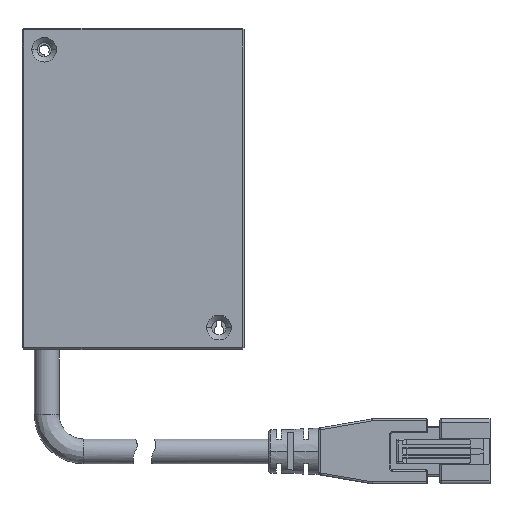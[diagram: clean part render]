
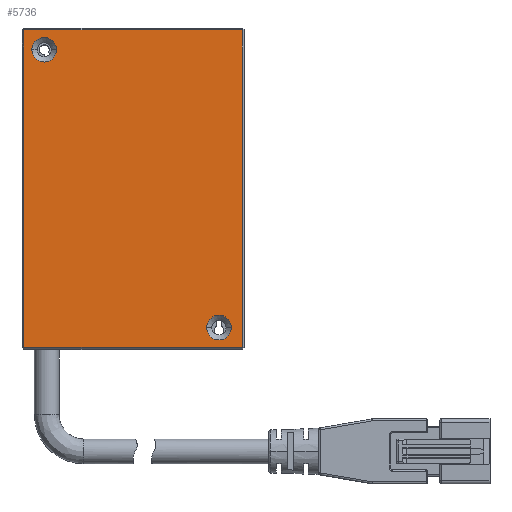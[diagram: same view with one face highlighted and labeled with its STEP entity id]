
A CAD part, top view. The second image highlights one B-rep face of the part: STEP entity #5736.
In plain terms, the highlighted planar face has unit normal (0, 0, 1).
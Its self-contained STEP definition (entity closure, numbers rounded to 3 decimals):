
#87 = CARTESIAN_POINT ( 'NONE',  ( 31.9, 3.5, 18. ) ) ;
#230 = ORIENTED_EDGE ( 'NONE', *, *, #3876, .F. ) ;
#344 = EDGE_LOOP ( 'NONE', ( #5588, #230 ) ) ;
#356 = LINE ( 'NONE', #4412, #6135 ) ;
#634 = EDGE_CURVE ( 'NONE', #7697, #4189, #10640, .T. ) ;
#1345 = CIRCLE ( 'NONE', #2762, 2. ) ;
#1503 = EDGE_CURVE ( 'NONE', #10865, #7697, #3431, .T. ) ;
#2211 = AXIS2_PLACEMENT_3D ( 'NONE', #87, #5400, #6278 ) ;
#2281 = CARTESIAN_POINT ( 'NONE',  ( 35.7, 26., 18. ) ) ;
#2302 = VERTEX_POINT ( 'NONE', #3364 ) ;
#2568 = CARTESIAN_POINT ( 'NONE',  ( 0.3, 51.7, 18. ) ) ;
#2762 = AXIS2_PLACEMENT_3D ( 'NONE', #10172, #9283, #4967 ) ;
#3049 = DIRECTION ( 'NONE',  ( 1., 0., 0. ) ) ;
#3058 = FACE_BOUND ( 'NONE', #10550, .T. ) ;
#3116 = CIRCLE ( 'NONE', #7609, 2. ) ;
#3279 = ORIENTED_EDGE ( 'NONE', *, *, #10668, .T. ) ;
#3282 = CARTESIAN_POINT ( 'NONE',  ( 18., 0.3, 18. ) ) ;
#3283 = DIRECTION ( 'NONE',  ( 0., 0., -1. ) ) ;
#3324 = CIRCLE ( 'NONE', #2211, 2. ) ;
#3364 = CARTESIAN_POINT ( 'NONE',  ( 5.6, 48.5, 18. ) ) ;
#3421 = CARTESIAN_POINT ( 'NONE',  ( 31.9, 3.5, 18. ) ) ;
#3431 = LINE ( 'NONE', #3282, #8694 ) ;
#3722 = ORIENTED_EDGE ( 'NONE', *, *, #1503, .T. ) ;
#3763 = CARTESIAN_POINT ( 'NONE',  ( 35.7, 51.7, 18. ) ) ;
#3765 = DIRECTION ( 'NONE',  ( 0., 1., 0. ) ) ;
#3876 = EDGE_CURVE ( 'NONE', #7874, #2302, #3116, .T. ) ;
#3979 = CARTESIAN_POINT ( 'NONE',  ( 29.9, 3.5, 18. ) ) ;
#4189 = VERTEX_POINT ( 'NONE', #3763 ) ;
#4252 = DIRECTION ( 'NONE',  ( 0., -1., 0. ) ) ;
#4294 = ORIENTED_EDGE ( 'NONE', *, *, #10155, .F. ) ;
#4318 = DIRECTION ( 'NONE',  ( 1., 0., 0. ) ) ;
#4385 = ORIENTED_EDGE ( 'NONE', *, *, #4518, .F. ) ;
#4412 = CARTESIAN_POINT ( 'NONE',  ( 18., 51.7, 18. ) ) ;
#4518 = EDGE_CURVE ( 'NONE', #8582, #5141, #3324, .T. ) ;
#4607 = VECTOR ( 'NONE', #4252, 1000. ) ;
#4724 = FACE_OUTER_BOUND ( 'NONE', #9814, .T. ) ;
#4967 = DIRECTION ( 'NONE',  ( 1., 0., 0. ) ) ;
#5141 = VERTEX_POINT ( 'NONE', #3979 ) ;
#5321 = ORIENTED_EDGE ( 'NONE', *, *, #11212, .T. ) ;
#5400 = DIRECTION ( 'NONE',  ( 0., 0., 1. ) ) ;
#5588 = ORIENTED_EDGE ( 'NONE', *, *, #8969, .F. ) ;
#5736 = ADVANCED_FACE ( 'NONE', ( #3058, #4724, #10382 ), #8588, .F. ) ;
#6135 = VECTOR ( 'NONE', #11385, 1000. ) ;
#6278 = DIRECTION ( 'NONE',  ( 1., 0., 0. ) ) ;
#6333 = VERTEX_POINT ( 'NONE', #2568 ) ;
#6643 = VECTOR ( 'NONE', #3765, 1000. ) ;
#6877 = AXIS2_PLACEMENT_3D ( 'NONE', #10390, #3283, #10456 ) ;
#7382 = CARTESIAN_POINT ( 'NONE',  ( 3.6, 48.5, 18. ) ) ;
#7609 = AXIS2_PLACEMENT_3D ( 'NONE', #7382, #8360, #3049 ) ;
#7697 = VERTEX_POINT ( 'NONE', #8031 ) ;
#7698 = CARTESIAN_POINT ( 'NONE',  ( 0.3, 26., 18. ) ) ;
#7874 = VERTEX_POINT ( 'NONE', #9968 ) ;
#8009 = ORIENTED_EDGE ( 'NONE', *, *, #634, .T. ) ;
#8031 = CARTESIAN_POINT ( 'NONE',  ( 35.7, 0.3, 18. ) ) ;
#8360 = DIRECTION ( 'NONE',  ( 0., 0., 1. ) ) ;
#8582 = VERTEX_POINT ( 'NONE', #9421 ) ;
#8588 = PLANE ( 'NONE',  #6877 ) ;
#8643 = LINE ( 'NONE', #7698, #4607 ) ;
#8694 = VECTOR ( 'NONE', #4318, 1000. ) ;
#8722 = DIRECTION ( 'NONE',  ( 0., 0., 1. ) ) ;
#8949 = DIRECTION ( 'NONE',  ( 1., 0., 0. ) ) ;
#8969 = EDGE_CURVE ( 'NONE', #2302, #7874, #1345, .T. ) ;
#9222 = AXIS2_PLACEMENT_3D ( 'NONE', #3421, #8722, #8949 ) ;
#9283 = DIRECTION ( 'NONE',  ( 0., 0., 1. ) ) ;
#9421 = CARTESIAN_POINT ( 'NONE',  ( 33.9, 3.5, 18. ) ) ;
#9736 = CIRCLE ( 'NONE', #9222, 2. ) ;
#9814 = EDGE_LOOP ( 'NONE', ( #8009, #3279, #5321, #3722 ) ) ;
#9895 = CARTESIAN_POINT ( 'NONE',  ( 0.3, 0.3, 18. ) ) ;
#9968 = CARTESIAN_POINT ( 'NONE',  ( 1.6, 48.5, 18. ) ) ;
#10155 = EDGE_CURVE ( 'NONE', #5141, #8582, #9736, .T. ) ;
#10172 = CARTESIAN_POINT ( 'NONE',  ( 3.6, 48.5, 18. ) ) ;
#10382 = FACE_BOUND ( 'NONE', #344, .T. ) ;
#10390 = CARTESIAN_POINT ( 'NONE',  ( 18., 26., 18. ) ) ;
#10456 = DIRECTION ( 'NONE',  ( -1., 0., 0. ) ) ;
#10550 = EDGE_LOOP ( 'NONE', ( #4385, #4294 ) ) ;
#10640 = LINE ( 'NONE', #2281, #6643 ) ;
#10668 = EDGE_CURVE ( 'NONE', #4189, #6333, #356, .T. ) ;
#10865 = VERTEX_POINT ( 'NONE', #9895 ) ;
#11212 = EDGE_CURVE ( 'NONE', #6333, #10865, #8643, .T. ) ;
#11385 = DIRECTION ( 'NONE',  ( -1., 0., 0. ) ) ;
